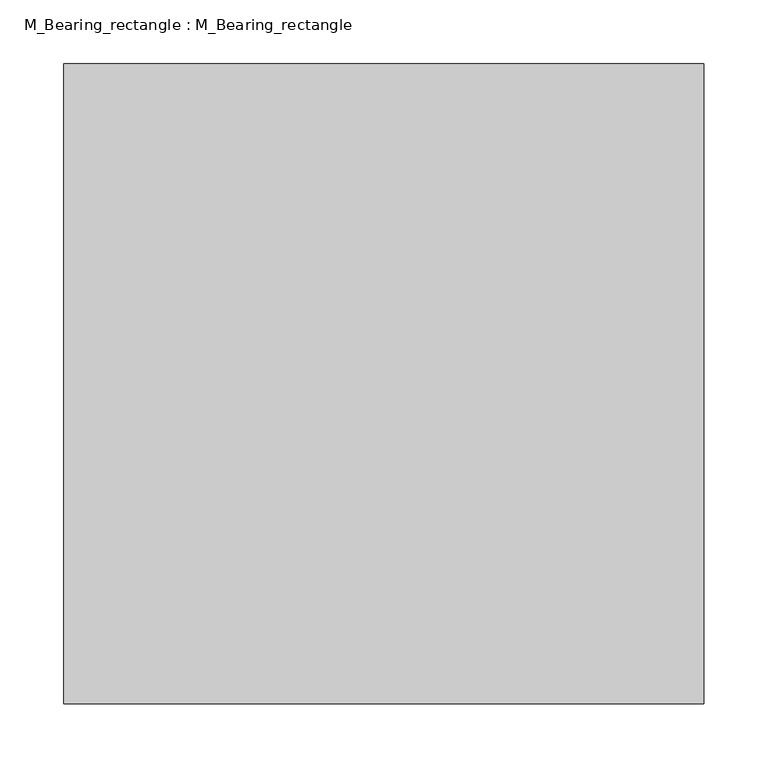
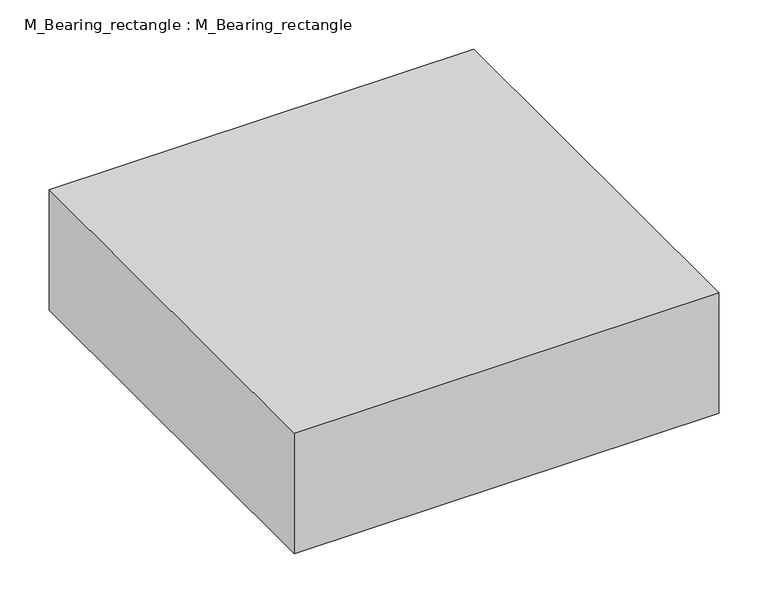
"""IFC4 building model written with IfcOpenShell, lengths in millimetres: proxy geometry, M_Bearing_rectangle : M_Bearing_rectangle."""

from ifc_helpers import new_model, si_unit, frame, origin, place, context, project, spatial, polyline, outline, extrude, source, transform, mapped, element, save


def m_bearing_rectangle_m_bearing_rectangle_8e37d638(model_context):
    return source(origin(), model_context, "Body", "SweptSolid", [
        extrude(outline(polyline([(250.0, 250.0), (250.0, -250.0), (-250.0, -250.0), (-250.0, 250.0), (250.0, 250.0)])), frame((0.0, 0.0, -150.0), z_axis=(0.0, 0.0, 1.0), x_axis=(1.0, 0.0, 0.0)), (0.0, 0.0, 1.0), 150.0),
    ])


if __name__ == "__main__":
    model = new_model("IFC4")
    model_context = context("Model", 3, world=origin())
    ifc_project = project(units=[si_unit("LENGTHUNIT", "METRE", prefix="MILLI")], contexts=[model_context])
    site = spatial("IfcSite", under=ifc_project)
    building = spatial("IfcBuilding", under=site)
    placement = place(None, origin())
    m_bearing_rectangle_m_bearing_rectangle_shape = m_bearing_rectangle_m_bearing_rectangle_8e37d638(model_context)
    element("IfcBuildingElementProxy", 1, Name="M_Bearing_rectangle : M_Bearing_rectangle", ObjectType="M_Bearing_rectangle : M_Bearing_rectangle", at=placement, inside=building, context=model_context, shape_type="MappedRepresentation", body=[
        mapped(m_bearing_rectangle_m_bearing_rectangle_shape, transform((0.0, 0.0, 0.0), x_axis=(1.0, 0.0, 0.0), y_axis=(0.0, 1.0, 0.0), z_axis=(0.0, 0.0, 1.0))),
    ])
    save(model, "model.ifc")
